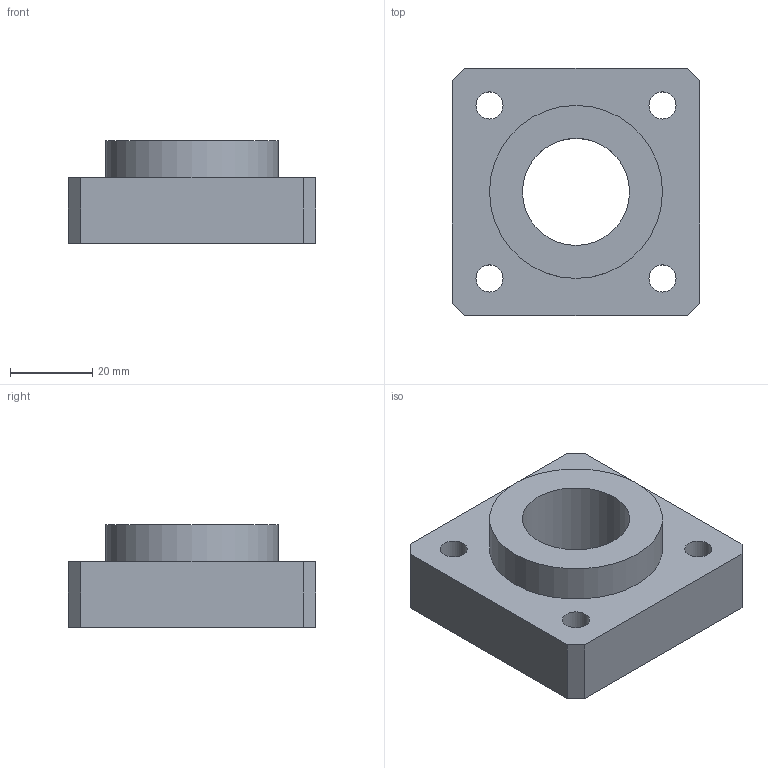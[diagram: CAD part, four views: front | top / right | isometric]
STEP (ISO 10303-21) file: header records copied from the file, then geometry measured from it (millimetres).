
FILE_DESCRIPTION((''),'2;1');
FILE_NAME('I:\Gleitlager\Vertrieb\Labor\robolink\Vertrieb-Tim\Step Daten\RL-TWAF-26.stp','2011-08-03T12:10:51',('MRaak'),(''),'Autodesk Inventor 2011','Autodesk Inventor 2011','');
FILE_SCHEMA(('AUTOMOTIVE_DESIGN { 1 0 10303 214 1 1 1 1 }'));
Length unit declared in the file: millimetre
Products named in the file (1): WAF-26
Bounding box: 60 x 60 x 25 mm (x, y, z)
Volume: 54318.2 mm3; surface area: 14112.5 mm2
Topology: 1 solids, 1 shells, 17 faces, 42 edges, 28 vertices
Faces by surface type: plane 11, cylinder 6
Full cylindrical faces by diameter (mm): 6.6 x4, 26 x1, 42 x1
Entity records: 524 total; most frequent: DIRECTION 84, CARTESIAN_POINT 82, ORIENTED_EDGE 72, EDGE_CURVE 36, EDGE_LOOP 34, AXIS2_PLACEMENT_3D 30, VERTEX_POINT 28, VECTOR 24
